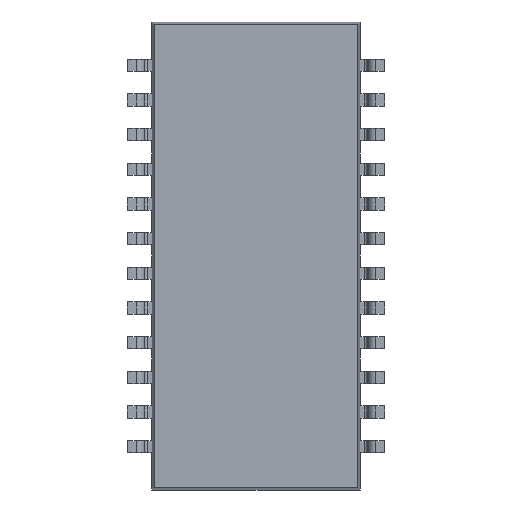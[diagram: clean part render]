
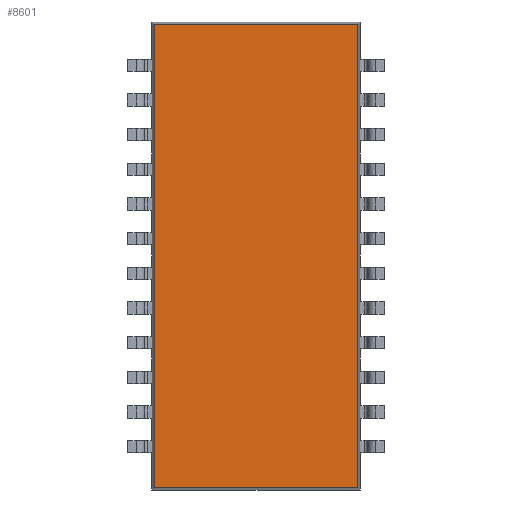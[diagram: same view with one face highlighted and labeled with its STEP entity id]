
A CAD part, front view. The second image highlights one B-rep face of the part: STEP entity #8601.
In plain terms, the highlighted planar face has unit normal (0, -1, 0).
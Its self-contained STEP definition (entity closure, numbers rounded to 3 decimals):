
#1609 = EDGE_CURVE ( 'NONE', #7220, #8160, #15435, .T. ) ;
#3150 = CARTESIAN_POINT ( 'NONE',  ( -3.726, 0.1, -8.486 ) ) ;
#3241 = CARTESIAN_POINT ( 'NONE',  ( 3.726, 0.1, 8.486 ) ) ;
#3342 = CARTESIAN_POINT ( 'NONE',  ( 3.726, 0.1, -8.486 ) ) ;
#3575 = CARTESIAN_POINT ( 'NONE',  ( -3.726, 0.1, 8.486 ) ) ;
#3868 = DIRECTION ( 'NONE',  ( 0., 0., -1. ) ) ;
#3870 = CARTESIAN_POINT ( 'NONE',  ( -3.726, 0.1, 8.57 ) ) ;
#3974 = DIRECTION ( 'NONE',  ( 1., 0., 0. ) ) ;
#3976 = CARTESIAN_POINT ( 'NONE',  ( 3.81, 0.1, -8.486 ) ) ;
#4089 = DIRECTION ( 'NONE',  ( -1., 0., 0. ) ) ;
#4090 = CARTESIAN_POINT ( 'NONE',  ( 3.81, 0.1, 8.486 ) ) ;
#5152 = DIRECTION ( 'NONE',  ( 0., 1., 0. ) ) ;
#5153 = DIRECTION ( 'NONE',  ( 0., 0., 1. ) ) ;
#5595 = PLANE ( 'NONE',  #11154 ) ;
#5787 = CARTESIAN_POINT ( 'NONE',  ( 0., 0.1, 0. ) ) ;
#6602 = CARTESIAN_POINT ( 'NONE',  ( 3.726, 0.1, 8.57 ) ) ;
#6605 = DIRECTION ( 'NONE',  ( 0., 0., 1. ) ) ;
#6846 = EDGE_CURVE ( 'NONE', #8160, #7812, #12185, .T. ) ;
#6881 = EDGE_CURVE ( 'NONE', #7816, #7220, #12155, .T. ) ;
#6915 = EDGE_CURVE ( 'NONE', #7812, #7816, #12814, .T. ) ;
#7220 = VERTEX_POINT ( 'NONE', #3342 ) ;
#7812 = VERTEX_POINT ( 'NONE', #3575 ) ;
#7816 = VERTEX_POINT ( 'NONE', #3150 ) ;
#8160 = VERTEX_POINT ( 'NONE', #3241 ) ;
#8601 = ADVANCED_FACE ( 'NONE', ( #13432 ), #5595, .F. ) ;
#8828 = ORIENTED_EDGE ( 'NONE', *, *, #1609, .T. ) ;
#8861 = ORIENTED_EDGE ( 'NONE', *, *, #6846, .T. ) ;
#9129 = ORIENTED_EDGE ( 'NONE', *, *, #6915, .T. ) ;
#9144 = ORIENTED_EDGE ( 'NONE', *, *, #6881, .T. ) ;
#11154 = AXIS2_PLACEMENT_3D ( 'NONE', #5787, #5152, #5153 ) ;
#12155 = LINE ( 'NONE', #3976, #12162 ) ;
#12162 = VECTOR ( 'NONE', #3974, 1000. ) ;
#12185 = LINE ( 'NONE', #4090, #12193 ) ;
#12193 = VECTOR ( 'NONE', #4089, 1000. ) ;
#12814 = LINE ( 'NONE', #3870, #12818 ) ;
#12818 = VECTOR ( 'NONE', #3868, 1000. ) ;
#13432 = FACE_OUTER_BOUND ( 'NONE', #13709, .T. ) ;
#13709 = EDGE_LOOP ( 'NONE', ( #9129, #9144, #8828, #8861 ) ) ;
#15276 = VECTOR ( 'NONE', #6605, 1000. ) ;
#15435 = LINE ( 'NONE', #6602, #15276 ) ;
